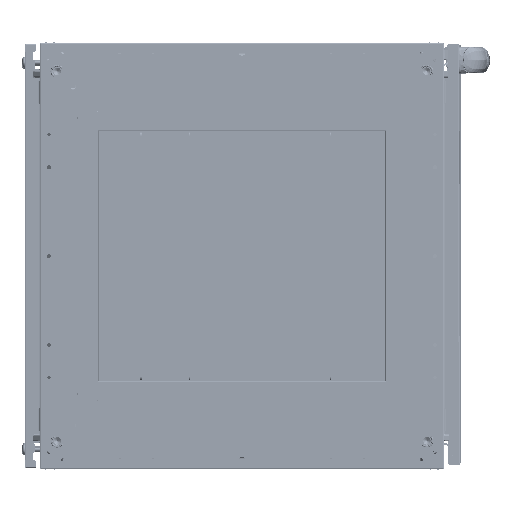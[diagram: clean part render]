
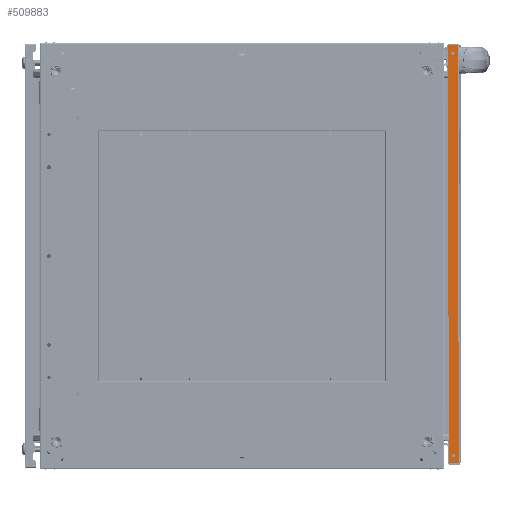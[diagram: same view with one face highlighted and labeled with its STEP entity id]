
A CAD part, front view. The second image highlights one B-rep face of the part: STEP entity #509883.
In plain terms, the highlighted planar face has unit normal (0, -1, 0) as drawn and (-1, 0, 0) by its records, which use the part's own axes.
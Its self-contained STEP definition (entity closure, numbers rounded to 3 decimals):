
#12661 = DIRECTION ( 'NONE',  ( 0., 0., -1. ) ) ;
#13790 = ORIENTED_EDGE ( 'NONE', *, *, #318936, .T. ) ;
#13899 = ORIENTED_EDGE ( 'NONE', *, *, #162966, .T. ) ;
#16110 = FACE_OUTER_BOUND ( 'NONE', #158320, .T. ) ;
#29890 = AXIS2_PLACEMENT_3D ( 'NONE', #151043, #520841, #12661 ) ;
#42790 = VERTEX_POINT ( 'NONE', #154740 ) ;
#54386 = VECTOR ( 'NONE', #59352, 1000. ) ;
#58219 = FACE_BOUND ( 'NONE', #254909, .T. ) ;
#59352 = DIRECTION ( 'NONE',  ( 0., 0., -1. ) ) ;
#60381 = EDGE_CURVE ( 'NONE', #312274, #338029, #176446, .T. ) ;
#60887 = EDGE_CURVE ( 'NONE', #292340, #540615, #431931, .T. ) ;
#66472 = EDGE_CURVE ( 'NONE', #370204, #42790, #279757, .T. ) ;
#75629 = VECTOR ( 'NONE', #284882, 1000. ) ;
#79911 = CARTESIAN_POINT ( 'NONE',  ( -2.01, 16., -588. ) ) ;
#83107 = VECTOR ( 'NONE', #353586, 1000. ) ;
#86416 = VERTEX_POINT ( 'NONE', #259001 ) ;
#101384 = DIRECTION ( 'NONE',  ( 0., -1., 0. ) ) ;
#111510 = ORIENTED_EDGE ( 'NONE', *, *, #60381, .T. ) ;
#139747 = CARTESIAN_POINT ( 'NONE',  ( -2.01, 9., -11. ) ) ;
#140406 = EDGE_CURVE ( 'NONE', #338029, #312274, #396006, .T. ) ;
#140413 = ORIENTED_EDGE ( 'NONE', *, *, #140406, .T. ) ;
#151043 = CARTESIAN_POINT ( 'NONE',  ( -2.01, 9., -11. ) ) ;
#154740 = CARTESIAN_POINT ( 'NONE',  ( -2.01, 9., -8.7 ) ) ;
#157440 = FACE_BOUND ( 'NONE', #493589, .T. ) ;
#158320 = EDGE_LOOP ( 'NONE', ( #417289, #312652, #13899, #426221 ) ) ;
#162966 = EDGE_CURVE ( 'NONE', #86416, #292340, #537018, .T. ) ;
#165146 = AXIS2_PLACEMENT_3D ( 'NONE', #139747, #323161, #419248 ) ;
#176446 = CIRCLE ( 'NONE', #253239, 2.3 ) ;
#199586 = PLANE ( 'NONE',  #297424 ) ;
#207926 = DIRECTION ( 'NONE',  ( 1., 0., 0. ) ) ;
#210350 = VERTEX_POINT ( 'NONE', #486785 ) ;
#211446 = CARTESIAN_POINT ( 'NONE',  ( -2.01, 9., -13.3 ) ) ;
#213571 = AXIS2_PLACEMENT_3D ( 'NONE', #253041, #207926, #472662 ) ;
#247649 = DIRECTION ( 'NONE',  ( 1., 0., 0. ) ) ;
#253041 = CARTESIAN_POINT ( 'NONE',  ( -2.01, 9., -577. ) ) ;
#253239 = AXIS2_PLACEMENT_3D ( 'NONE', #551350, #506215, #554338 ) ;
#254909 = EDGE_LOOP ( 'NONE', ( #535182, #13790 ) ) ;
#259001 = CARTESIAN_POINT ( 'NONE',  ( -2.01, 16., 0. ) ) ;
#279757 = CIRCLE ( 'NONE', #29890, 2.3 ) ;
#284882 = DIRECTION ( 'NONE',  ( 0., 1., 0. ) ) ;
#292340 = VERTEX_POINT ( 'NONE', #368133 ) ;
#297424 = AXIS2_PLACEMENT_3D ( 'NONE', #382996, #247649, #431014 ) ;
#312274 = VERTEX_POINT ( 'NONE', #540632 ) ;
#312652 = ORIENTED_EDGE ( 'NONE', *, *, #447980, .T. ) ;
#318936 = EDGE_CURVE ( 'NONE', #42790, #370204, #328232, .T. ) ;
#323161 = DIRECTION ( 'NONE',  ( 1., 0., 0. ) ) ;
#328232 = CIRCLE ( 'NONE', #165146, 2.3 ) ;
#338029 = VERTEX_POINT ( 'NONE', #562240 ) ;
#339012 = CARTESIAN_POINT ( 'NONE',  ( -2.01, 2.01, -588. ) ) ;
#353586 = DIRECTION ( 'NONE',  ( 0., 0., -1. ) ) ;
#368133 = CARTESIAN_POINT ( 'NONE',  ( -2.01, 16., -588. ) ) ;
#370204 = VERTEX_POINT ( 'NONE', #211446 ) ;
#372179 = CARTESIAN_POINT ( 'NONE',  ( -2.01, 16., 0. ) ) ;
#381036 = LINE ( 'NONE', #372179, #75629 ) ;
#382996 = CARTESIAN_POINT ( 'NONE',  ( -2.01, 16., -588. ) ) ;
#396006 = CIRCLE ( 'NONE', #213571, 2.3 ) ;
#417289 = ORIENTED_EDGE ( 'NONE', *, *, #477740, .F. ) ;
#419248 = DIRECTION ( 'NONE',  ( 0., 0., -1. ) ) ;
#426221 = ORIENTED_EDGE ( 'NONE', *, *, #60887, .T. ) ;
#431014 = DIRECTION ( 'NONE',  ( 0., 1., 0. ) ) ;
#431931 = LINE ( 'NONE', #522243, #453627 ) ;
#447980 = EDGE_CURVE ( 'NONE', #210350, #86416, #381036, .T. ) ;
#453627 = VECTOR ( 'NONE', #101384, 1000. ) ;
#472662 = DIRECTION ( 'NONE',  ( 0., 0., -1. ) ) ;
#477274 = LINE ( 'NONE', #339012, #54386 ) ;
#477740 = EDGE_CURVE ( 'NONE', #210350, #540615, #477274, .T. ) ;
#486785 = CARTESIAN_POINT ( 'NONE',  ( -2.01, 2.01, 0. ) ) ;
#493589 = EDGE_LOOP ( 'NONE', ( #111510, #140413 ) ) ;
#506215 = DIRECTION ( 'NONE',  ( 1., 0., 0. ) ) ;
#509883 = ADVANCED_FACE ( 'NONE', ( #157440, #58219, #16110 ), #199586, .F. ) ;
#520841 = DIRECTION ( 'NONE',  ( 1., 0., 0. ) ) ;
#522243 = CARTESIAN_POINT ( 'NONE',  ( -2.01, 16., -588. ) ) ;
#535182 = ORIENTED_EDGE ( 'NONE', *, *, #66472, .T. ) ;
#537018 = LINE ( 'NONE', #79911, #83107 ) ;
#540615 = VERTEX_POINT ( 'NONE', #576242 ) ;
#540632 = CARTESIAN_POINT ( 'NONE',  ( -2.01, 9., -579.3 ) ) ;
#551350 = CARTESIAN_POINT ( 'NONE',  ( -2.01, 9., -577. ) ) ;
#554338 = DIRECTION ( 'NONE',  ( 0., 0., -1. ) ) ;
#562240 = CARTESIAN_POINT ( 'NONE',  ( -2.01, 9., -574.7 ) ) ;
#576242 = CARTESIAN_POINT ( 'NONE',  ( -2.01, 2.01, -588. ) ) ;
